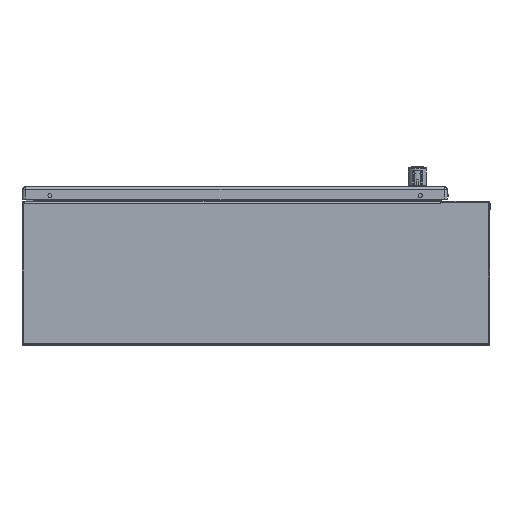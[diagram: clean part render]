
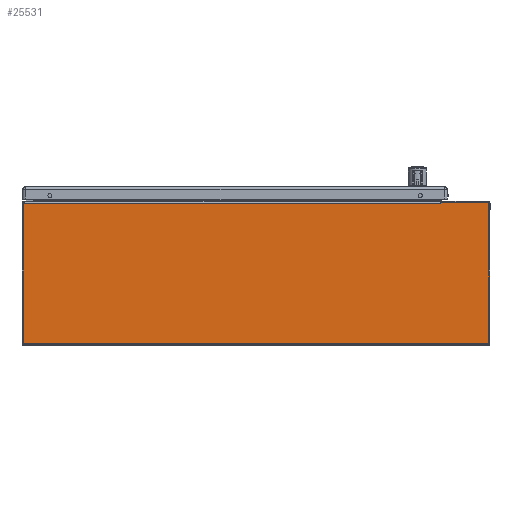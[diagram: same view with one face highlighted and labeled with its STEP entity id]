
A CAD part, front view. The second image highlights one B-rep face of the part: STEP entity #25531.
In plain terms, the highlighted planar face has unit normal (0, -1, 0).
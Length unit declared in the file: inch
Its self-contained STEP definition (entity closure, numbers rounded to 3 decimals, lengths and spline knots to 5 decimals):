
#1144 = LINE ( 'NONE', #21370, #45802 ) ;
#3640 = VERTEX_POINT ( 'NONE', #91647 ) ;
#4221 = AXIS2_PLACEMENT_3D ( 'NONE', #48700, #93104, #19905 ) ;
#5007 = VECTOR ( 'NONE', #79236, 39.37008 ) ;
#6004 = ORIENTED_EDGE ( 'NONE', *, *, #83403, .F. ) ;
#9057 = VERTEX_POINT ( 'NONE', #77609 ) ;
#11572 = LINE ( 'NONE', #60628, #35538 ) ;
#14622 = DIRECTION ( 'NONE',  ( 0., 0., 1. ) ) ;
#17007 = EDGE_CURVE ( 'NONE', #68444, #39815, #61028, .T. ) ;
#17314 = VERTEX_POINT ( 'NONE', #72683 ) ;
#18592 = ORIENTED_EDGE ( 'NONE', *, *, #67305, .F. ) ;
#19905 = DIRECTION ( 'NONE',  ( 0., 0., 1. ) ) ;
#20044 = CARTESIAN_POINT ( 'NONE',  ( -12.206, -15., 0.115 ) ) ;
#21370 = CARTESIAN_POINT ( 'NONE',  ( 13.68829, -15., 8. ) ) ;
#23127 = ORIENTED_EDGE ( 'NONE', *, *, #65372, .F. ) ;
#23630 = FACE_OUTER_BOUND ( 'NONE', #44113, .T. ) ;
#25419 = CARTESIAN_POINT ( 'NONE',  ( 13.68829, -15., 0.115 ) ) ;
#25531 = ADVANCED_FACE ( 'NONE', ( #23630 ), #64027, .F. ) ;
#25968 = CARTESIAN_POINT ( 'NONE',  ( -12.15029, -15., 7.855 ) ) ;
#29722 = ORIENTED_EDGE ( 'NONE', *, *, #71898, .F. ) ;
#32135 = DIRECTION ( 'NONE',  ( 1., 0., 0. ) ) ;
#35538 = VECTOR ( 'NONE', #60325, 39.37008 ) ;
#39815 = VERTEX_POINT ( 'NONE', #25968 ) ;
#43606 = VECTOR ( 'NONE', #77607, 39.37008 ) ;
#44065 = AXIS2_PLACEMENT_3D ( 'NONE', #74676, #75307, #67980 ) ;
#44113 = EDGE_LOOP ( 'NONE', ( #60564, #79497, #18592, #23127, #53406, #6004, #29722 ) ) ;
#45802 = VECTOR ( 'NONE', #14622, 39.37008 ) ;
#48090 = VERTEX_POINT ( 'NONE', #86407 ) ;
#48700 = CARTESIAN_POINT ( 'NONE',  ( -12.206, -15., 8. ) ) ;
#49027 = LINE ( 'NONE', #60027, #55915 ) ;
#51606 = LINE ( 'NONE', #63184, #43606 ) ;
#53406 = ORIENTED_EDGE ( 'NONE', *, *, #17007, .T. ) ;
#55915 = VECTOR ( 'NONE', #32135, 39.37008 ) ;
#57327 = VERTEX_POINT ( 'NONE', #25419 ) ;
#60027 = CARTESIAN_POINT ( 'NONE',  ( 10.99046, -15., 7.9453 ) ) ;
#60325 = DIRECTION ( 'NONE',  ( 0., 0., 1. ) ) ;
#60564 = ORIENTED_EDGE ( 'NONE', *, *, #94836, .T. ) ;
#60628 = CARTESIAN_POINT ( 'NONE',  ( -12.15029, -15., 0.055 ) ) ;
#61028 = LINE ( 'NONE', #66712, #66702 ) ;
#63184 = CARTESIAN_POINT ( 'NONE',  ( 10.99046, -15., 8. ) ) ;
#64027 = PLANE ( 'NONE',  #4221 ) ;
#65372 = EDGE_CURVE ( 'NONE', #68444, #48090, #51606, .T. ) ;
#66702 = VECTOR ( 'NONE', #71808, 39.37008 ) ;
#66712 = CARTESIAN_POINT ( 'NONE',  ( 10.99046, -15., 7.855 ) ) ;
#67305 = EDGE_CURVE ( 'NONE', #48090, #9057, #49027, .T. ) ;
#67980 = DIRECTION ( 'NONE',  ( 0., 0., 1. ) ) ;
#68444 = VERTEX_POINT ( 'NONE', #88842 ) ;
#71808 = DIRECTION ( 'NONE',  ( -1., 0., 0. ) ) ;
#71898 = EDGE_CURVE ( 'NONE', #57327, #3640, #93135, .T. ) ;
#72683 = CARTESIAN_POINT ( 'NONE',  ( 13.68829, -15., 7.8576 ) ) ;
#74676 = CARTESIAN_POINT ( 'NONE',  ( 13.60059, -15., 7.8576 ) ) ;
#75307 = DIRECTION ( 'NONE',  ( 0., -1., 0. ) ) ;
#77607 = DIRECTION ( 'NONE',  ( 0., 0., 1. ) ) ;
#77609 = CARTESIAN_POINT ( 'NONE',  ( 13.60059, -15., 7.9453 ) ) ;
#79236 = DIRECTION ( 'NONE',  ( -1., 0., 0. ) ) ;
#79497 = ORIENTED_EDGE ( 'NONE', *, *, #89118, .T. ) ;
#83403 = EDGE_CURVE ( 'NONE', #3640, #39815, #11572, .T. ) ;
#84039 = CIRCLE ( 'NONE', #44065, 0.0877 ) ;
#86407 = CARTESIAN_POINT ( 'NONE',  ( 10.99046, -15., 7.9453 ) ) ;
#88842 = CARTESIAN_POINT ( 'NONE',  ( 10.99046, -15., 7.855 ) ) ;
#89118 = EDGE_CURVE ( 'NONE', #17314, #9057, #84039, .T. ) ;
#91647 = CARTESIAN_POINT ( 'NONE',  ( -12.15029, -15., 0.115 ) ) ;
#93104 = DIRECTION ( 'NONE',  ( 0., 1., 0. ) ) ;
#93135 = LINE ( 'NONE', #20044, #5007 ) ;
#94836 = EDGE_CURVE ( 'NONE', #57327, #17314, #1144, .T. ) ;
